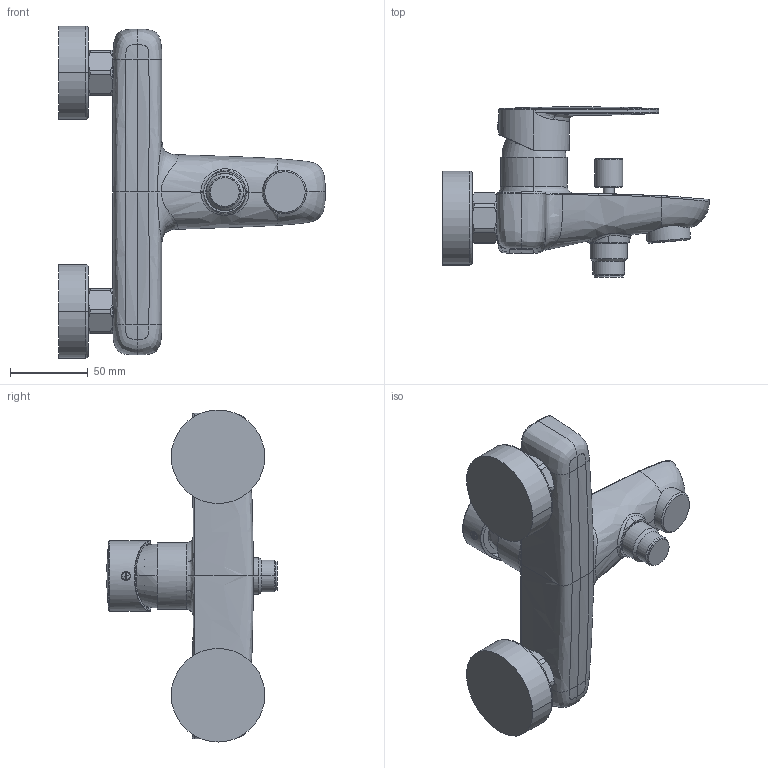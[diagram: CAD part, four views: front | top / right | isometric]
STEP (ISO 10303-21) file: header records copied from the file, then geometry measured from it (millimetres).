
FILE_DESCRIPTION((''),'2;1');
FILE_NAME('20_382_333_XXX','2018-02-20T',('ES997'),(''),'CREO PARAMETRIC BY PTC INC, 2016260','CREO PARAMETRIC BY PTC INC, 2016260','');
FILE_SCHEMA(('CONFIG_CONTROL_DESIGN'));
Length unit declared in the file: millimetre
Products named in the file (1): 20_382_333_XXX
Bounding box: 171.28 x 109.21 x 213 mm (x, y, z)
Volume: 577004.7 mm3; surface area: 80754.2 mm2
Topology: 2 solids, 2 shells, 277 faces, 664 edges, 400 vertices
Faces by surface type: bspline 91, cylinder 61, plane 56, cone 46, torus 21, sphere 2
Entity records: 20073 total; most frequent: CARTESIAN_POINT 14459, ORIENTED_EDGE 1320, DIRECTION 895, EDGE_CURVE 660, VERTEX_POINT 400, AXIS2_PLACEMENT_3D 373, B_SPLINE_CURVE_WITH_KNOTS 324, EDGE_LOOP 290
